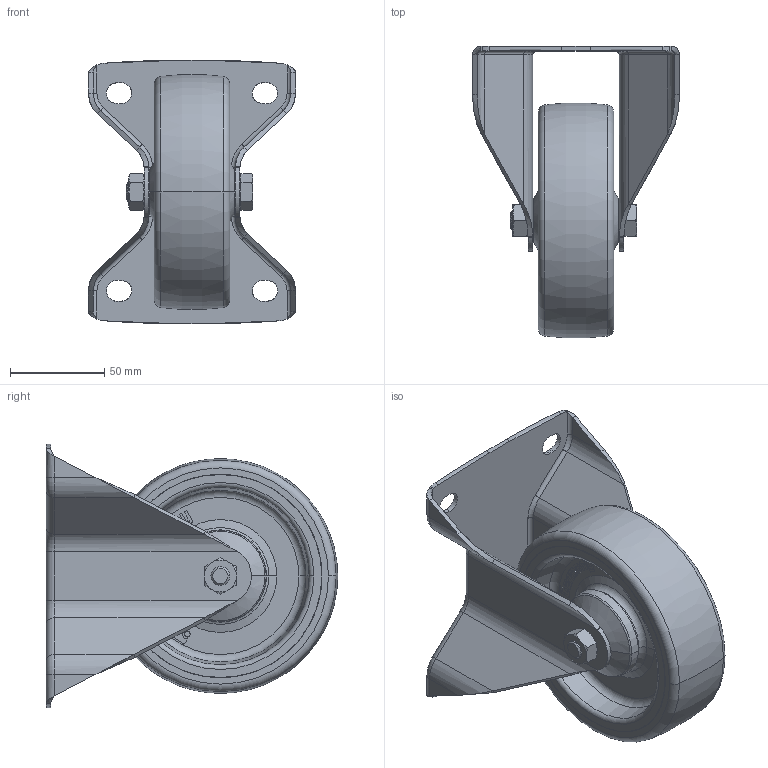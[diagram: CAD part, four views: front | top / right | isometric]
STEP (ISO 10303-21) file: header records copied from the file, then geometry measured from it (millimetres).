
FILE_DESCRIPTION (( 'STEP AP214' ), '1' );
FILE_NAME ('BK-POTH_125K-3_313221-214.step', '2021-12-07T09:40:43', ( '' ), ( '' ), 'SwSTEP 2.0', 'SolidWorks 2018', '' );
FILE_SCHEMA (( 'AUTOMOTIVE_DESIGN' ));
Length unit declared in the file: millimetre
Products named in the file (5): GH-BK_80-125_GH-BK-125x45-03_10x46; POTH_3D_G16_POTH_125_10K_558742; GH-BK-125x45-03_10x46_G16_3D; POTH_125_10K_G16_3D; BK-POTH_125K-3_313221-214
Assembly tree (4 placements, depth 3):
  BK-POTH_125K-3_313221-214
    GH-BK_80-125_GH-BK-125x45-03_10x46
      GH-BK-125x45-03_10x46_G16_3D
    POTH_3D_G16_POTH_125_10K_558742
      POTH_125_10K_G16_3D
Bounding box: 110 x 154.88 x 140 mm (x, y, z)
Volume: 375833 mm3; surface area: 133242.8 mm2
Topology: 2 solids, 6 shells, 1398 faces, 3642 edges, 2359 vertices
Faces by surface type: plane 675, bspline 442, cylinder 112, torus 86, cone 83
Entity records: 55025 total; most frequent: CARTESIAN_POINT 16472, ORIENTED_EDGE 7284, DIRECTION 5113, EDGE_CURVE 3642, VERTEX_POINT 2359, VECTOR 2173, LINE 2173, EDGE_LOOP 1521
